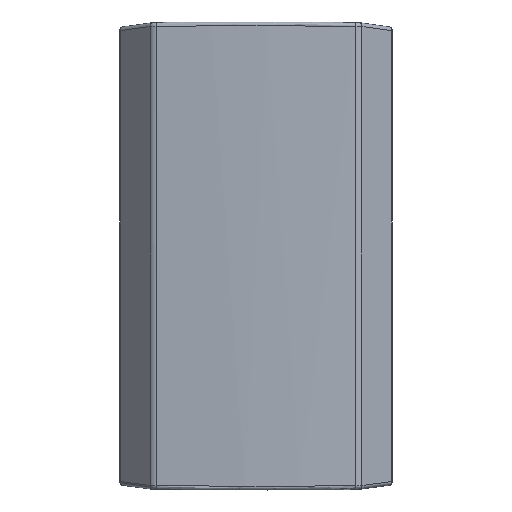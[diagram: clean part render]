
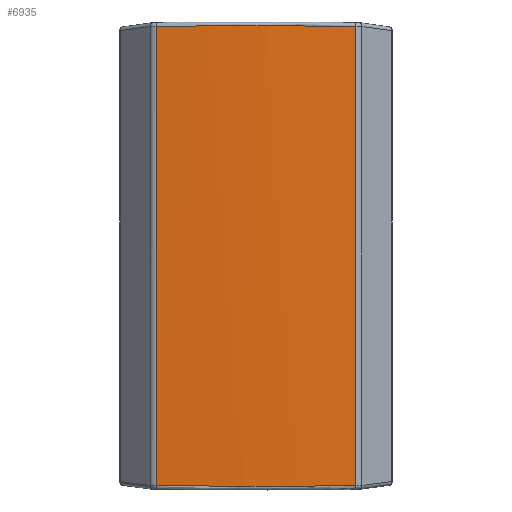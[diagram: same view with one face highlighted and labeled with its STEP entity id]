
A CAD part, top view. The second image highlights one B-rep face of the part: STEP entity #6935.
In plain terms, the highlighted free-form (B-spline) face has degree [3, 1] with [8, 2] control points.
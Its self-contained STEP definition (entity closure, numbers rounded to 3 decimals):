
#59 = CARTESIAN_POINT ( 'NONE',  ( 76.161, -163.948, 163.474 ) ) ;
#65 = VERTEX_POINT ( 'NONE', #9350 ) ;
#272 = CARTESIAN_POINT ( 'NONE',  ( 87.04, 437.246, 162.92 ) ) ;
#312 = CARTESIAN_POINT ( 'NONE',  ( 130.508, 436.879, 159.925 ) ) ;
#365 = CARTESIAN_POINT ( 'NONE',  ( 43.519, 437.476, 164.805 ) ) ;
#587 = CARTESIAN_POINT ( 'NONE',  ( 22.573, 441.225, 165.248 ) ) ;
#761 = CARTESIAN_POINT ( 'NONE',  ( -76.159, -163.949, 163.476 ) ) ;
#770 = CARTESIAN_POINT ( 'NONE',  ( 88.652, 441.225, 162.932 ) ) ;
#818 = VECTOR ( 'NONE', #2814, 1000. ) ;
#844 = VERTEX_POINT ( 'NONE', #3105 ) ;
#1417 = EDGE_CURVE ( 'NONE', #6480, #4314, #2567, .T. ) ;
#1522 = CARTESIAN_POINT ( 'NONE',  ( -108.785, -163.718, 161.59 ) ) ;
#1532 = CARTESIAN_POINT ( 'NONE',  ( 130.508, -167.859, 159.925 ) ) ;
#2113 = CARTESIAN_POINT ( 'NONE',  ( -130.508, -167.859, 159.925 ) ) ;
#2567 = B_SPLINE_CURVE_WITH_KNOTS ( 'NONE', 3,
 ( #7970, #5814, #1522, #8670, #761, #3687, #6625, #6577, #7317, #59, #8755, #5866, #5149, #8013 ),
 .UNSPECIFIED., .F., .F.,
 ( 4, 2, 2, 2, 2, 2, 4 ),
 ( 0., 0.033, 0.065, 0.131, 0.196, 0.229, 0.261 ),
 .UNSPECIFIED. ) ;
#2814 = DIRECTION ( 'NONE',  ( 0., -1., 0. ) ) ;
#2926 = CARTESIAN_POINT ( 'NONE',  ( 130.508, 441.225, 159.925 ) ) ;
#3105 = CARTESIAN_POINT ( 'NONE',  ( -130.508, 436.879, 159.925 ) ) ;
#3183 = CARTESIAN_POINT ( 'NONE',  ( -21.761, 437.531, 165.248 ) ) ;
#3431 = CARTESIAN_POINT ( 'NONE',  ( -130.508, -163.514, 159.925 ) ) ;
#3493 = DIRECTION ( 'NONE',  ( 0., 1., 0. ) ) ;
#3504 = CARTESIAN_POINT ( 'NONE',  ( 45.123, 441.225, 164.771 ) ) ;
#3687 = CARTESIAN_POINT ( 'NONE',  ( -43.519, -164.112, 164.807 ) ) ;
#3697 = FACE_OUTER_BOUND ( 'NONE', #7976, .T. ) ;
#3912 = CARTESIAN_POINT ( 'NONE',  ( 108.785, 437.083, 161.589 ) ) ;
#3994 = CARTESIAN_POINT ( 'NONE',  ( 76.159, 437.314, 163.474 ) ) ;
#4306 = CARTESIAN_POINT ( 'NONE',  ( -130.508, 441.225, 159.925 ) ) ;
#4314 = VERTEX_POINT ( 'NONE', #4828 ) ;
#4353 = CARTESIAN_POINT ( 'NONE',  ( 109.588, -167.859, 161.635 ) ) ;
#4397 = CARTESIAN_POINT ( 'NONE',  ( -43.621, 441.225, 165.248 ) ) ;
#4515 = CARTESIAN_POINT ( 'NONE',  ( -130.508, 436.879, 159.925 ) ) ;
#4662 = CARTESIAN_POINT ( 'NONE',  ( 21.759, 437.531, 165.248 ) ) ;
#4828 = CARTESIAN_POINT ( 'NONE',  ( 130.508, -163.514, 159.925 ) ) ;
#4919 = LINE ( 'NONE', #7794, #5024 ) ;
#5024 = VECTOR ( 'NONE', #3493, 1000. ) ;
#5060 = CARTESIAN_POINT ( 'NONE',  ( -87.05, -167.859, 163.477 ) ) ;
#5149 = CARTESIAN_POINT ( 'NONE',  ( 119.651, -163.623, 160.812 ) ) ;
#5370 = CARTESIAN_POINT ( 'NONE',  ( -43.521, 437.477, 164.807 ) ) ;
#5378 = ORIENTED_EDGE ( 'NONE', *, *, #1417, .T. ) ;
#5457 = CARTESIAN_POINT ( 'NONE',  ( -76.161, 437.314, 163.476 ) ) ;
#5510 = ORIENTED_EDGE ( 'NONE', *, *, #5784, .T. ) ;
#5784 = EDGE_CURVE ( 'NONE', #4314, #65, #4919, .T. ) ;
#5814 = CARTESIAN_POINT ( 'NONE',  ( -119.651, -163.623, 160.813 ) ) ;
#5866 = CARTESIAN_POINT ( 'NONE',  ( 108.786, -163.718, 161.589 ) ) ;
#5867 = B_SPLINE_SURFACE_WITH_KNOTS ( 'NONE', 3, 1, ( 
 ( #2113, #4306 ),
 ( #5060, #7935 ),
 ( #7979, #4397 ),
 ( #6399, #587 ),
 ( #8022, #3504 ),
 ( #7275, #770 ),
 ( #4353, #6585 ),
 ( #1532, #2926 ) ),
 .UNSPECIFIED., .F., .F., .F.,
 ( 4, 2, 2, 4 ),
 ( 2, 2 ),
 ( -286.003, -155.627, -88.149, -25.398 ),
 ( 0., 1. ),
 .UNSPECIFIED. ) ;
#5994 = CARTESIAN_POINT ( 'NONE',  ( -119.651, 436.988, 160.813 ) ) ;
#6088 = CARTESIAN_POINT ( 'NONE',  ( -87.043, 437.246, 162.921 ) ) ;
#6399 = CARTESIAN_POINT ( 'NONE',  ( 22.573, -167.859, 165.248 ) ) ;
#6480 = VERTEX_POINT ( 'NONE', #3431 ) ;
#6577 = CARTESIAN_POINT ( 'NONE',  ( 21.76, -164.166, 165.248 ) ) ;
#6585 = CARTESIAN_POINT ( 'NONE',  ( 109.588, 441.225, 161.635 ) ) ;
#6625 = CARTESIAN_POINT ( 'NONE',  ( -21.76, -164.166, 165.248 ) ) ;
#6935 = ADVANCED_FACE ( 'NONE', ( #3697 ), #5867, .T. ) ;
#7076 = LINE ( 'NONE', #8437, #818 ) ;
#7275 = CARTESIAN_POINT ( 'NONE',  ( 88.652, -167.859, 162.932 ) ) ;
#7317 = CARTESIAN_POINT ( 'NONE',  ( 43.521, -164.111, 164.805 ) ) ;
#7380 = ORIENTED_EDGE ( 'NONE', *, *, #7719, .T. ) ;
#7719 = EDGE_CURVE ( 'NONE', #65, #844, #8508, .T. ) ;
#7794 = CARTESIAN_POINT ( 'NONE',  ( 130.508, -169.163, 159.925 ) ) ;
#7935 = CARTESIAN_POINT ( 'NONE',  ( -87.05, 441.225, 163.477 ) ) ;
#7970 = CARTESIAN_POINT ( 'NONE',  ( -130.508, -163.514, 159.925 ) ) ;
#7976 = EDGE_LOOP ( 'NONE', ( #9096, #5378, #5510, #7380 ) ) ;
#7979 = CARTESIAN_POINT ( 'NONE',  ( -43.621, -167.859, 165.248 ) ) ;
#8013 = CARTESIAN_POINT ( 'NONE',  ( 130.508, -163.514, 159.925 ) ) ;
#8022 = CARTESIAN_POINT ( 'NONE',  ( 45.123, -167.859, 164.771 ) ) ;
#8437 = CARTESIAN_POINT ( 'NONE',  ( -130.508, 442.529, 159.925 ) ) ;
#8508 = B_SPLINE_CURVE_WITH_KNOTS ( 'NONE', 3,
 ( #312, #8980, #3912, #272, #3994, #365, #4662, #3183, #5370, #5457, #6088, #8929, #5994, #4515 ),
 .UNSPECIFIED., .F., .F.,
 ( 4, 2, 2, 2, 2, 2, 4 ),
 ( 0., 0.033, 0.065, 0.131, 0.196, 0.229, 0.261 ),
 .UNSPECIFIED. ) ;
#8670 = CARTESIAN_POINT ( 'NONE',  ( -87.04, -163.881, 162.921 ) ) ;
#8755 = CARTESIAN_POINT ( 'NONE',  ( 87.042, -163.881, 162.92 ) ) ;
#8929 = CARTESIAN_POINT ( 'NONE',  ( -108.786, 437.083, 161.59 ) ) ;
#8980 = CARTESIAN_POINT ( 'NONE',  ( 119.651, 436.988, 160.812 ) ) ;
#9096 = ORIENTED_EDGE ( 'NONE', *, *, #9324, .T. ) ;
#9324 = EDGE_CURVE ( 'NONE', #844, #6480, #7076, .T. ) ;
#9350 = CARTESIAN_POINT ( 'NONE',  ( 130.508, 436.879, 159.925 ) ) ;
